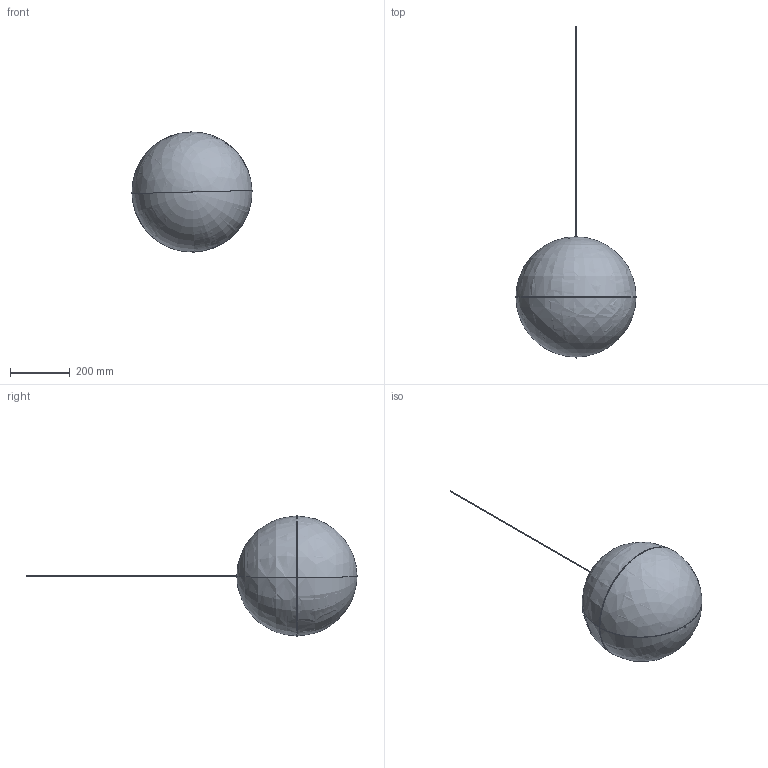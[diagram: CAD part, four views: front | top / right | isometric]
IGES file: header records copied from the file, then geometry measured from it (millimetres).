
Start section: SolidWorks IGES file using analytic representation for surfaces
Global section: file name: C:\Users\Chiina\Desktop\Chiina\Dokumendid\Frandsen Project\VerPan\VP Globe (Small)\VP Globe Small.IGS; native system: SolidWorks 2013; preprocessor: SolidWorks 2013; author: Chiina; date: 130114.202619; units: millimetre
Bounding box: 401.86 x 1111.16 x 401.86 mm (x, y, z)
Surface area: 1373259.6 mm2 (no closed solid volume)
Topology: 0 solids, 0 shells, 1013 faces, 14483 edges, 13568 vertices
Faces by surface type: revolution 520, bspline 493
